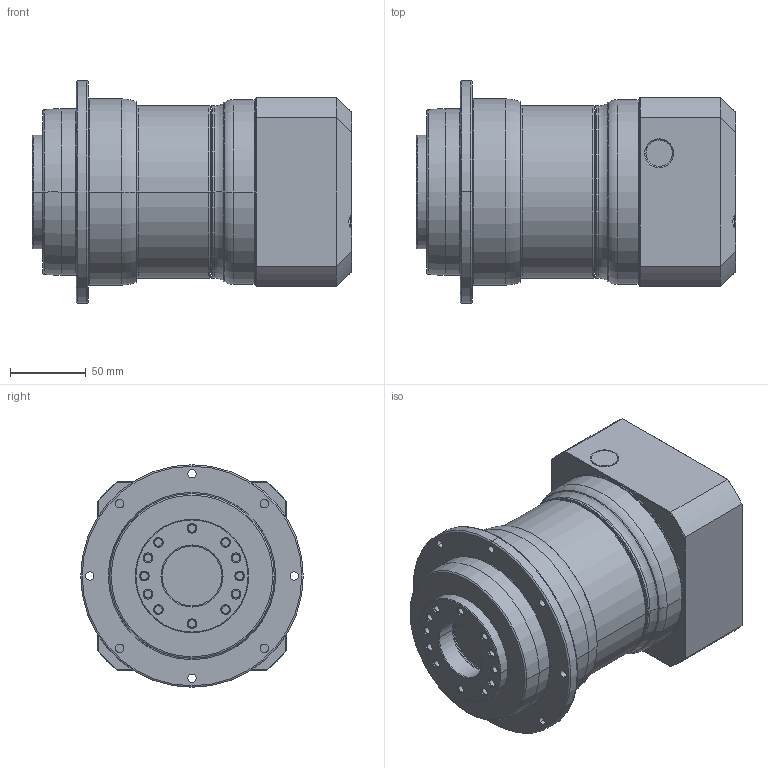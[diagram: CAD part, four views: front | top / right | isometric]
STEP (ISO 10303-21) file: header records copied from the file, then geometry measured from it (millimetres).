
FILE_DESCRIPTION((''),'2;1');
FILE_NAME('PD110_2ST_32-P0411700101_ASM','2016-06-04T',('d01943'),(''),'PRO/ENGINEER BY PARAMETRIC TECHNOLOGY CORPORATION, 2008410','PRO/ENGINEER BY PARAMETRIC TECHNOLOGY CORPORATION, 2008410','');
FILE_SCHEMA(('CONFIG_CONTROL_DESIGN'));
Length unit declared in the file: millimetre
Products named in the file (8): P1355400001; P0367400001; P0275400001; P1324400301; P0411700101; P0503700010; P0941403001; PD110_2ST_32-P0411700101_ASM
Assembly tree (7 placements, depth 2):
  PD110_2ST_32-P0411700101_ASM
    P1355400001
    P0367400001
    P0275400001
    P1324400301
    P0411700101
    P0503700010
    P0941403001
Bounding box: 210.93 x 147 x 147 mm (x, y, z)
Volume: 2150896.3 mm3; surface area: 293493.8 mm2
Topology: 7 solids, 8 shells, 453 faces, 1052 edges, 634 vertices
Faces by surface type: cylinder 174, cone 94, plane 87, torus 76, bspline 22
Entity records: 18051 total; most frequent: CARTESIAN_POINT 7377, DIRECTION 2373, ORIENTED_EDGE 2072, EDGE_CURVE 1036, AXIS2_PLACEMENT_3D 1010, VERTEX_POINT 634, CIRCLE 564, EDGE_LOOP 546
